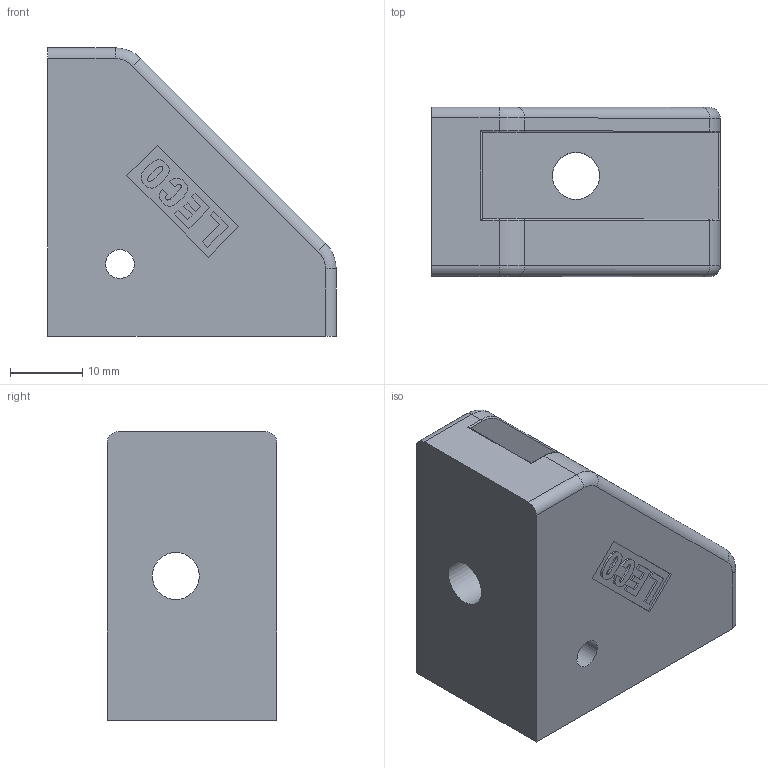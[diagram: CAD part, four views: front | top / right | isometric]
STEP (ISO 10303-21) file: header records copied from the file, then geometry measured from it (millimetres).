
FILE_DESCRIPTION(('STEP AP214'),'1');
FILE_NAME('BL4F-H.stp','2017-07-14T04:38:46',(' '),(' '),'Spatial InterOp 3D',' ',' ');
FILE_SCHEMA(('automotive_design'));
Length unit declared in the file: millimetre
Products named in the file (1): BL4F-H
Bounding box: 40 x 23.5 x 40 mm (x, y, z)
Volume: 19105.4 mm3; surface area: 7522.2 mm2
Topology: 1 solids, 1 shells, 166 faces, 437 edges, 285 vertices
Faces by surface type: cylinder 86, plane 72, torus 8
Full cylindrical faces by diameter (mm): 4 x2, 6.5 x2
Entity records: 6496 total; most frequent: DIRECTION 942, CARTESIAN_POINT 883, ORIENTED_EDGE 864, EDGE_CURVE 432, AXIS2_PLACEMENT_3D 343, VERTEX_POINT 284, LINE 256, VECTOR 256
